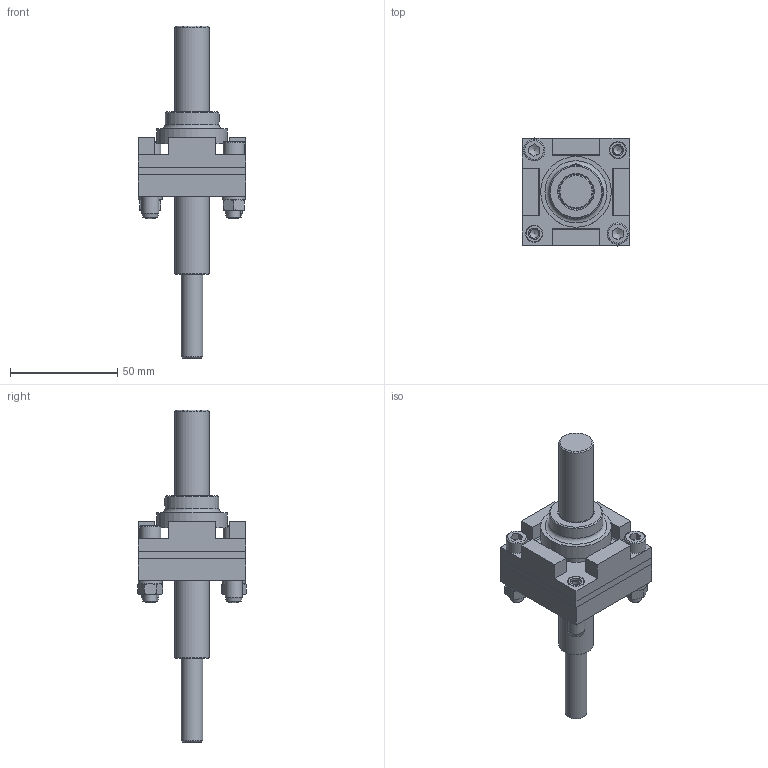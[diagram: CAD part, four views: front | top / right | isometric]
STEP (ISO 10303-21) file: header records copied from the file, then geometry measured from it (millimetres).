
FILE_DESCRIPTION(/* description */ (''),/* implementation_level */ '2;1');
FILE_NAME(/* name */ 'C:\Local Work Area\Progetti\AP\CALIBRI\06.00-SF-xx SONDA FORI\06.00-SF-XX.stp',/* time_stamp */ '2020-11-13T11:48:06+01:00',/* author */ ('CAD5'),/* organization */ (''),/* preprocessor_version */ 'ST-DEVELOPER v17.2',/* originating_system */ 'Autodesk Inventor 2019',/* authorisation */ '');
FILE_SCHEMA (('AUTOMOTIVE_DESIGN { 1 0 10303 214 3 1 1 }'));
Length unit declared in the file: millimetre
Products named in the file (15): 06.00-SF-XX; 07.05; 07.02; 07.11; 06.01; 06.02; 07.04; 06.03; 07.06; 06.04-10; ISO 4027 - M3 x 5 (AP); UNI 5931 - M 6 x  30; UNI 5588 - M6; UNI 6592 8.8 - 6,4 x 11; ISO 8735 - 8 x 30 - A
Assembly tree (19 placements, depth 4):
  06.00-SF-XX
    07.05
    07.02
    07.11
    06.01
    06.02
      07.04
      06.03
        07.06
      06.04-10
      ISO 4027 - M3 x 5 (AP)  x2
    UNI 5931 - M 6 x  30  x2
    UNI 5588 - M6  x2
    UNI 6592 8.8 - 6,4 x 11  x2
    ISO 8735 - 8 x 30 - A  x2
Bounding box: 50 x 50.55 x 155 mm (x, y, z)
Volume: 76358.8 mm3; surface area: 42389.6 mm2
Topology: 17 solids, 17 shells, 236 faces, 596 edges, 405 vertices
Faces by surface type: plane 108, cone 61, cylinder 59, torus 6, sphere 2
Full cylindrical faces by diameter (mm): 2.459 x2, 3 x2, 3.242 x1, 4.135 x2, 4.917 x2, 5.3 x2, 6 x3, 6.2 x2, 6.4 x2, 6.5 x2, 8 x6, 8.2 x4, 10 x6, 10.2 x2, 11 x3, 15.98 x1, 16 x2, 16.05 x1, 19 x1, 23 x2, 24 x1, 24.5 x1, 25 x2, 33 x1, 35 x1, 44 x1
Entity records: 6148 total; most frequent: CARTESIAN_POINT 1167, DIRECTION 1017, ORIENTED_EDGE 882, EDGE_CURVE 441, AXIS2_PLACEMENT_3D 413, VERTEX_POINT 308, EDGE_LOOP 233, CIRCLE 205
